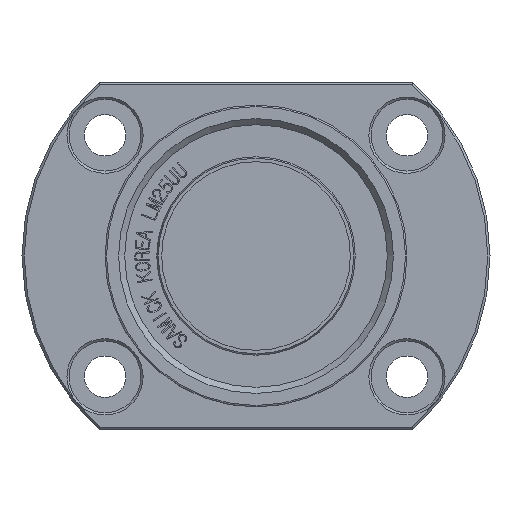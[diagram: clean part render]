
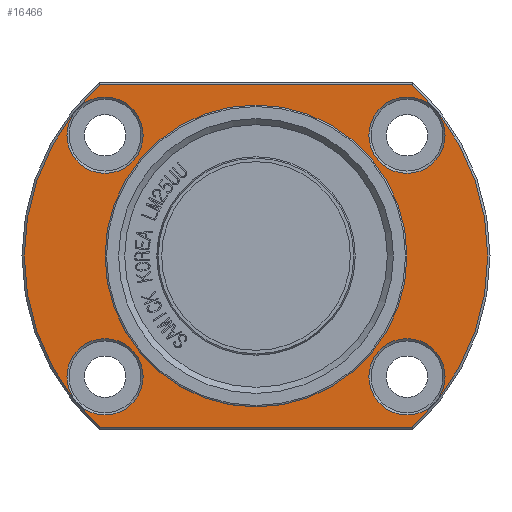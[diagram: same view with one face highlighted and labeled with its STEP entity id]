
A CAD part, front view. The second image highlights one B-rep face of the part: STEP entity #16466.
In plain terms, the highlighted planar face has unit normal (0, -1, 0).
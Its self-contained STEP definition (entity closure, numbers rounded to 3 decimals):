
#2701=FACE_BOUND('',#3891,.T.);
#2702=FACE_BOUND('',#3892,.T.);
#2703=FACE_BOUND('',#3893,.T.);
#2704=FACE_BOUND('',#3894,.T.);
#2705=FACE_BOUND('',#3895,.T.);
#2763=PLANE('',#17375);
#3004=FACE_OUTER_BOUND('',#3890,.T.);
#3890=EDGE_LOOP('',(#11458,#11459,#11460,#11461));
#3891=EDGE_LOOP('',(#11462));
#3892=EDGE_LOOP('',(#11463));
#3893=EDGE_LOOP('',(#11464,#11465));
#3894=EDGE_LOOP('',(#11466));
#3895=EDGE_LOOP('',(#11467));
#4838=LINE('',#19637,#6022);
#4839=LINE('',#19641,#6023);
#6022=VECTOR('',#17740,10.);
#6023=VECTOR('',#17743,10.);
#7205=CIRCLE('',#17372,5.05);
#7208=CIRCLE('',#17376,30.7);
#7209=CIRCLE('',#17377,30.7);
#7210=CIRCLE('',#17378,5.05);
#7211=CIRCLE('',#17379,5.05);
#7212=CIRCLE('',#17380,20.);
#7213=CIRCLE('',#17381,20.);
#7214=CIRCLE('',#17382,5.05);
#7287=VERTEX_POINT('',#19627);
#7290=VERTEX_POINT('',#19635);
#7291=VERTEX_POINT('',#19636);
#7292=VERTEX_POINT('',#19638);
#7293=VERTEX_POINT('',#19640);
#7294=VERTEX_POINT('',#19643);
#7295=VERTEX_POINT('',#19645);
#7296=VERTEX_POINT('',#19647);
#7297=VERTEX_POINT('',#19648);
#7298=VERTEX_POINT('',#19651);
#8955=EDGE_CURVE('',#7287,#7287,#7205,.T.);
#8959=EDGE_CURVE('',#7290,#7291,#4838,.T.);
#8960=EDGE_CURVE('',#7290,#7292,#7208,.T.);
#8961=EDGE_CURVE('',#7293,#7292,#4839,.T.);
#8962=EDGE_CURVE('',#7293,#7291,#7209,.T.);
#8963=EDGE_CURVE('',#7294,#7294,#7210,.T.);
#8964=EDGE_CURVE('',#7295,#7295,#7211,.T.);
#8965=EDGE_CURVE('',#7296,#7297,#7212,.T.);
#8966=EDGE_CURVE('',#7297,#7296,#7213,.T.);
#8967=EDGE_CURVE('',#7298,#7298,#7214,.T.);
#11458=ORIENTED_EDGE('',*,*,#8959,.F.);
#11459=ORIENTED_EDGE('',*,*,#8960,.T.);
#11460=ORIENTED_EDGE('',*,*,#8961,.F.);
#11461=ORIENTED_EDGE('',*,*,#8962,.T.);
#11462=ORIENTED_EDGE('',*,*,#8963,.F.);
#11463=ORIENTED_EDGE('',*,*,#8964,.F.);
#11464=ORIENTED_EDGE('',*,*,#8965,.F.);
#11465=ORIENTED_EDGE('',*,*,#8966,.F.);
#11466=ORIENTED_EDGE('',*,*,#8967,.F.);
#11467=ORIENTED_EDGE('',*,*,#8955,.F.);
#16466=ADVANCED_FACE('',(#3004,#2701,#2702,#2703,#2704,#2705),#2763,.T.);
#17372=AXIS2_PLACEMENT_3D('',#19628,#17731,#17732);
#17375=AXIS2_PLACEMENT_3D('',#19634,#17738,#17739);
#17376=AXIS2_PLACEMENT_3D('',#19639,#17741,#17742);
#17377=AXIS2_PLACEMENT_3D('',#19642,#17744,#17745);
#17378=AXIS2_PLACEMENT_3D('',#19644,#17746,#17747);
#17379=AXIS2_PLACEMENT_3D('',#19646,#17748,#17749);
#17380=AXIS2_PLACEMENT_3D('',#19649,#17750,#17751);
#17381=AXIS2_PLACEMENT_3D('',#19650,#17752,#17753);
#17382=AXIS2_PLACEMENT_3D('',#19652,#17754,#17755);
#17731=DIRECTION('center_axis',(0.,-1.,0.));
#17732=DIRECTION('ref_axis',(-1.,0.,0.));
#17738=DIRECTION('center_axis',(0.,-1.,0.));
#17739=DIRECTION('ref_axis',(0.,0.,-1.));
#17740=DIRECTION('',(-1.,0.,0.));
#17741=DIRECTION('center_axis',(0.,-1.,0.));
#17742=DIRECTION('ref_axis',(1.,0.,0.));
#17743=DIRECTION('',(1.,0.,0.));
#17744=DIRECTION('center_axis',(0.,-1.,0.));
#17745=DIRECTION('ref_axis',(1.,0.,0.));
#17746=DIRECTION('center_axis',(0.,-1.,0.));
#17747=DIRECTION('ref_axis',(-1.,0.,0.));
#17748=DIRECTION('center_axis',(0.,-1.,0.));
#17749=DIRECTION('ref_axis',(-1.,0.,0.));
#17750=DIRECTION('center_axis',(0.,-1.,0.));
#17751=DIRECTION('ref_axis',(1.,0.,0.));
#17752=DIRECTION('center_axis',(0.,-1.,0.));
#17753=DIRECTION('ref_axis',(1.,0.,0.));
#17754=DIRECTION('center_axis',(0.,-1.,0.));
#17755=DIRECTION('ref_axis',(-1.,0.,0.));
#19627=CARTESIAN_POINT('',(-14.95,-56.,-16.));
#19628=CARTESIAN_POINT('Origin',(-20.,-56.,-16.));
#19634=CARTESIAN_POINT('Origin',(25.35,-56.,0.));
#19635=CARTESIAN_POINT('',(20.669,-56.,-22.7));
#19636=CARTESIAN_POINT('',(-20.669,-56.,-22.7));
#19637=CARTESIAN_POINT('',(30.175,-56.,-22.7));
#19638=CARTESIAN_POINT('',(20.669,-56.,22.7));
#19639=CARTESIAN_POINT('Origin',(0.,-56.,0.));
#19640=CARTESIAN_POINT('',(-20.669,-56.,22.7));
#19641=CARTESIAN_POINT('',(-4.825,-56.,22.7));
#19642=CARTESIAN_POINT('Origin',(0.,-56.,0.));
#19643=CARTESIAN_POINT('',(-14.95,-56.,16.));
#19644=CARTESIAN_POINT('Origin',(-20.,-56.,16.));
#19645=CARTESIAN_POINT('',(25.05,-56.,-16.));
#19646=CARTESIAN_POINT('Origin',(20.,-56.,-16.));
#19647=CARTESIAN_POINT('',(20.,-56.,0.));
#19648=CARTESIAN_POINT('',(-20.,-56.,0.));
#19649=CARTESIAN_POINT('Origin',(0.,-56.,0.));
#19650=CARTESIAN_POINT('Origin',(0.,-56.,0.));
#19651=CARTESIAN_POINT('',(25.05,-56.,16.));
#19652=CARTESIAN_POINT('Origin',(20.,-56.,16.));
